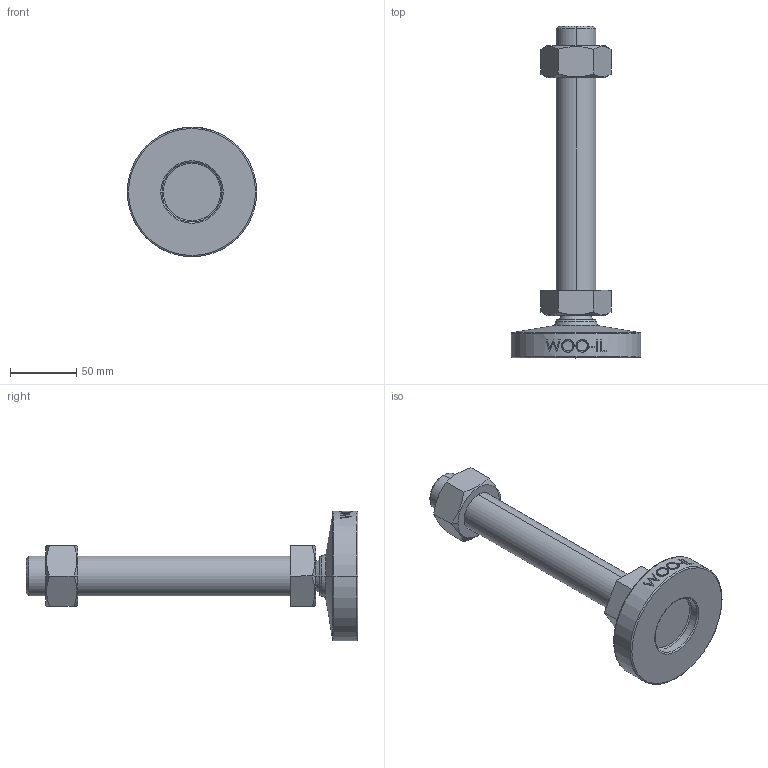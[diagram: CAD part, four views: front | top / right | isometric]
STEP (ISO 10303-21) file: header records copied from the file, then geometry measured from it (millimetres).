
FILE_DESCRIPTION (( 'STEP AP214' ), '1' );
FILE_NAME ('MFN98-M30-200.step', '2021-01-19T06:32:02', ( '' ), ( '' ), 'SwSTEP 2.0', 'SolidWorks 2019', '' );
FILE_SCHEMA (( 'AUTOMOTIVE_DESIGN' ));
Length unit declared in the file: millimetre
Products named in the file (2): MFN98-M30-200
Bounding box: 98 x 251 x 98 mm (x, y, z)
Volume: 357323.9 mm3; surface area: 54796.9 mm2
Topology: 2 solids, 2 shells, 107 faces, 247 edges, 156 vertices
Faces by surface type: plane 47, cone 18, cylinder 16, bspline 16, torus 8, sphere 2
Entity records: 4647 total; most frequent: CARTESIAN_POINT 2280, ORIENTED_EDGE 494, DIRECTION 447, EDGE_CURVE 247, AXIS2_PLACEMENT_3D 173, VERTEX_POINT 156, EDGE_LOOP 121, FACE_OUTER_BOUND 107
